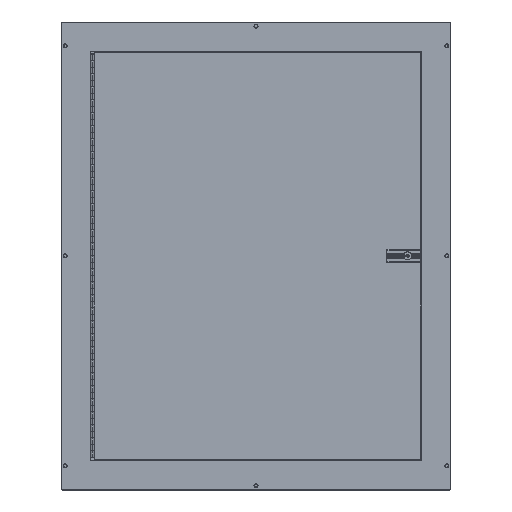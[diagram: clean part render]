
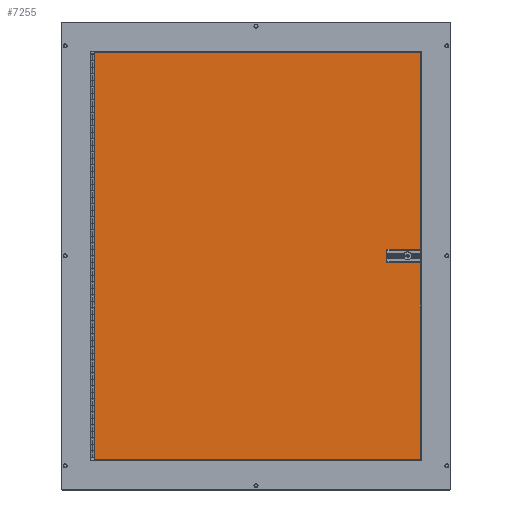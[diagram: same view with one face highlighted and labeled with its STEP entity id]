
A CAD part, top view. The second image highlights one B-rep face of the part: STEP entity #7255.
In plain terms, the highlighted planar face has unit normal (0, 0, 1).
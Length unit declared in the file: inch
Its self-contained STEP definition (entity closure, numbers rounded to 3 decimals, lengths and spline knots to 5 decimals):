
#3035 = DIRECTION ( 'NONE',  ( -1., 0., 0. ) ) ;
#3036 = DIRECTION ( 'NONE',  ( 0., 0., -1. ) ) ;
#3037 = CARTESIAN_POINT ( 'NONE',  ( -12.565, 15.65, 0.097 ) ) ;
#3039 = AXIS2_PLACEMENT_3D ( 'NONE', #3037, #3036, #3035 ) ;
#3040 = PLANE ( 'NONE',  #3039 ) ;
#3041 = FACE_BOUND ( 'NONE', #14889, .T. ) ;
#3042 = FACE_OUTER_BOUND ( 'NONE', #14874, .T. ) ;
#3384 = CARTESIAN_POINT ( 'NONE',  ( -12.565, -15.65, 0.097 ) ) ;
#3385 = CARTESIAN_POINT ( 'NONE',  ( 12.565, -15.65, 0.097 ) ) ;
#3386 = DIRECTION ( 'NONE',  ( 1., 0., 0. ) ) ;
#3387 = VECTOR ( 'NONE', #3386, 39.37008 ) ;
#3388 = CARTESIAN_POINT ( 'NONE',  ( -12.565, -15.65, 0.097 ) ) ;
#3389 = LINE ( 'NONE', #3388, #3387 ) ;
#3418 = DIRECTION ( 'NONE',  ( -1., 0., 0. ) ) ;
#3419 = VECTOR ( 'NONE', #3418, 39.37008 ) ;
#3420 = CARTESIAN_POINT ( 'NONE',  ( 10.43, 0.51, 0.097 ) ) ;
#3421 = LINE ( 'NONE', #3420, #3419 ) ;
#3424 = DIRECTION ( 'NONE',  ( -1., 0., 0. ) ) ;
#3425 = VECTOR ( 'NONE', #3424, 39.37008 ) ;
#3426 = CARTESIAN_POINT ( 'NONE',  ( -12.565, 15.65, 0.097 ) ) ;
#3427 = LINE ( 'NONE', #3426, #3425 ) ;
#3428 = DIRECTION ( 'NONE',  ( 0., 1., 0. ) ) ;
#3429 = VECTOR ( 'NONE', #3428, 39.37008 ) ;
#3430 = CARTESIAN_POINT ( 'NONE',  ( 12.565, -15.65, 0.097 ) ) ;
#3431 = LINE ( 'NONE', #3430, #3429 ) ;
#3433 = CARTESIAN_POINT ( 'NONE',  ( 12.565, 15.65, 0.097 ) ) ;
#3441 = DIRECTION ( 'NONE',  ( 0., -1., 0. ) ) ;
#3442 = VECTOR ( 'NONE', #3441, 39.37008 ) ;
#3443 = CARTESIAN_POINT ( 'NONE',  ( -12.565, -15.65, 0.097 ) ) ;
#3444 = LINE ( 'NONE', #3443, #3442 ) ;
#3445 = CARTESIAN_POINT ( 'NONE',  ( -12.565, 15.65, 0.097 ) ) ;
#3446 = VECTOR ( 'NONE', #3508, 39.37008 ) ;
#3447 = CARTESIAN_POINT ( 'NONE',  ( 10.43, -0.51, 0.097 ) ) ;
#3448 = LINE ( 'NONE', #3447, #3446 ) ;
#3449 = CARTESIAN_POINT ( 'NONE',  ( 12.15, 0.51, 0.097 ) ) ;
#3450 = DIRECTION ( 'NONE',  ( 0., 1., 0. ) ) ;
#3451 = VECTOR ( 'NONE', #3450, 39.37008 ) ;
#3452 = CARTESIAN_POINT ( 'NONE',  ( 12.15, -0.51, 0.097 ) ) ;
#3453 = LINE ( 'NONE', #3452, #3451 ) ;
#3455 = CARTESIAN_POINT ( 'NONE',  ( 10.43, 0.51, 0.097 ) ) ;
#3461 = CARTESIAN_POINT ( 'NONE',  ( 12.15, -0.51, 0.097 ) ) ;
#3462 = CARTESIAN_POINT ( 'NONE',  ( 10.43, -0.51, 0.097 ) ) ;
#3473 = DIRECTION ( 'NONE',  ( 1., 0., 0. ) ) ;
#3474 = VECTOR ( 'NONE', #3473, 39.37008 ) ;
#3475 = CARTESIAN_POINT ( 'NONE',  ( 10.43, -0.51, 0.097 ) ) ;
#3476 = LINE ( 'NONE', #3475, #3474 ) ;
#3508 = DIRECTION ( 'NONE',  ( 0., -1., 0. ) ) ;
#7255 = ADVANCED_FACE ( 'NONE', ( #3042, #3041 ), #3040, .F. ) ;
#14874 = EDGE_LOOP ( 'NONE', ( #14879, #14880, #14876, #14888 ) ) ;
#14875 = EDGE_CURVE ( 'NONE', #14881, #14877, #3389, .T. ) ;
#14876 = ORIENTED_EDGE ( 'NONE', *, *, #14892, .T. ) ;
#14877 = VERTEX_POINT ( 'NONE', #3385 ) ;
#14879 = ORIENTED_EDGE ( 'NONE', *, *, #14883, .T. ) ;
#14880 = ORIENTED_EDGE ( 'NONE', *, *, #14875, .T. ) ;
#14881 = VERTEX_POINT ( 'NONE', #3384 ) ;
#14882 = VERTEX_POINT ( 'NONE', #3445 ) ;
#14883 = EDGE_CURVE ( 'NONE', #14882, #14881, #3444, .T. ) ;
#14885 = ORIENTED_EDGE ( 'NONE', *, *, #14913, .F. ) ;
#14886 = ORIENTED_EDGE ( 'NONE', *, *, #14916, .F. ) ;
#14888 = ORIENTED_EDGE ( 'NONE', *, *, #14893, .T. ) ;
#14889 = EDGE_LOOP ( 'NONE', ( #14886, #14899, #14885, #14915 ) ) ;
#14890 = VERTEX_POINT ( 'NONE', #3433 ) ;
#14892 = EDGE_CURVE ( 'NONE', #14877, #14890, #3431, .T. ) ;
#14893 = EDGE_CURVE ( 'NONE', #14890, #14882, #3427, .T. ) ;
#14897 = EDGE_CURVE ( 'NONE', #14914, #14911, #3421, .T. ) ;
#14899 = ORIENTED_EDGE ( 'NONE', *, *, #14897, .F. ) ;
#14900 = EDGE_CURVE ( 'NONE', #14904, #14905, #3476, .T. ) ;
#14904 = VERTEX_POINT ( 'NONE', #3462 ) ;
#14905 = VERTEX_POINT ( 'NONE', #3461 ) ;
#14911 = VERTEX_POINT ( 'NONE', #3455 ) ;
#14913 = EDGE_CURVE ( 'NONE', #14905, #14914, #3453, .T. ) ;
#14914 = VERTEX_POINT ( 'NONE', #3449 ) ;
#14915 = ORIENTED_EDGE ( 'NONE', *, *, #14900, .F. ) ;
#14916 = EDGE_CURVE ( 'NONE', #14911, #14904, #3448, .T. ) ;
